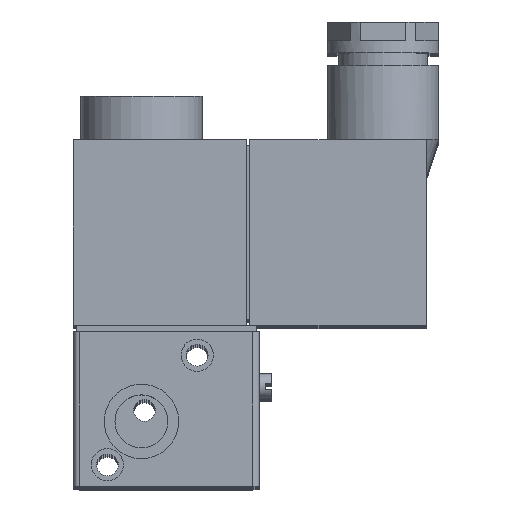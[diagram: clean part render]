
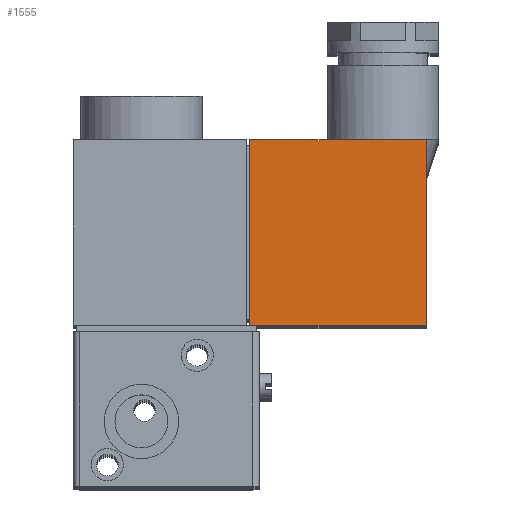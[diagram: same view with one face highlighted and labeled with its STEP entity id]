
A CAD part, top view. The second image highlights one B-rep face of the part: STEP entity #1555.
In plain terms, the highlighted planar face has unit normal (0, 0, 1).
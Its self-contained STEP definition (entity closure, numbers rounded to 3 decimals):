
#259=FACE_OUTER_BOUND('',#372,.T.);
#372=EDGE_LOOP('',(#1314,#1315,#1316,#1317));
#458=LINE('',#2598,#579);
#488=LINE('',#2662,#609);
#490=LINE('',#2668,#611);
#491=LINE('',#2670,#612);
#579=VECTOR('',#2112,1000.);
#609=VECTOR('',#2166,1000.);
#611=VECTOR('',#2174,1000.);
#612=VECTOR('',#2177,1000.);
#788=VERTEX_POINT('',#2595);
#789=VERTEX_POINT('',#2597);
#809=VERTEX_POINT('',#2656);
#811=VERTEX_POINT('',#2660);
#952=EDGE_CURVE('',#788,#789,#458,.T.);
#983=EDGE_CURVE('',#809,#811,#488,.T.);
#987=EDGE_CURVE('',#788,#809,#490,.T.);
#988=EDGE_CURVE('',#789,#811,#491,.T.);
#1314=ORIENTED_EDGE('',*,*,#983,.T.);
#1315=ORIENTED_EDGE('',*,*,#988,.F.);
#1316=ORIENTED_EDGE('',*,*,#952,.F.);
#1317=ORIENTED_EDGE('',*,*,#987,.T.);
#1471=PLANE('',#1770);
#1555=ADVANCED_FACE('',(#259),#1471,.F.);
#1770=AXIS2_PLACEMENT_3D('',#2669,#2175,#2176);
#2112=DIRECTION('',(0.,-1.,0.));
#2166=DIRECTION('',(0.,-1.,0.));
#2174=DIRECTION('',(-1.,0.,0.));
#2175=DIRECTION('center_axis',(0.,0.,-1.));
#2176=DIRECTION('ref_axis',(-1.,0.,0.));
#2177=DIRECTION('',(-1.,0.,0.));
#2595=CARTESIAN_POINT('',(57.,30.,22.));
#2597=CARTESIAN_POINT('',(57.,0.,22.));
#2598=CARTESIAN_POINT('',(57.,30.,22.));
#2656=CARTESIAN_POINT('',(28.5,30.,22.));
#2660=CARTESIAN_POINT('',(28.5,0.,22.));
#2662=CARTESIAN_POINT('',(28.5,30.,22.));
#2668=CARTESIAN_POINT('',(57.,30.,22.));
#2669=CARTESIAN_POINT('Origin',(57.,30.,22.));
#2670=CARTESIAN_POINT('',(57.,0.,22.));
